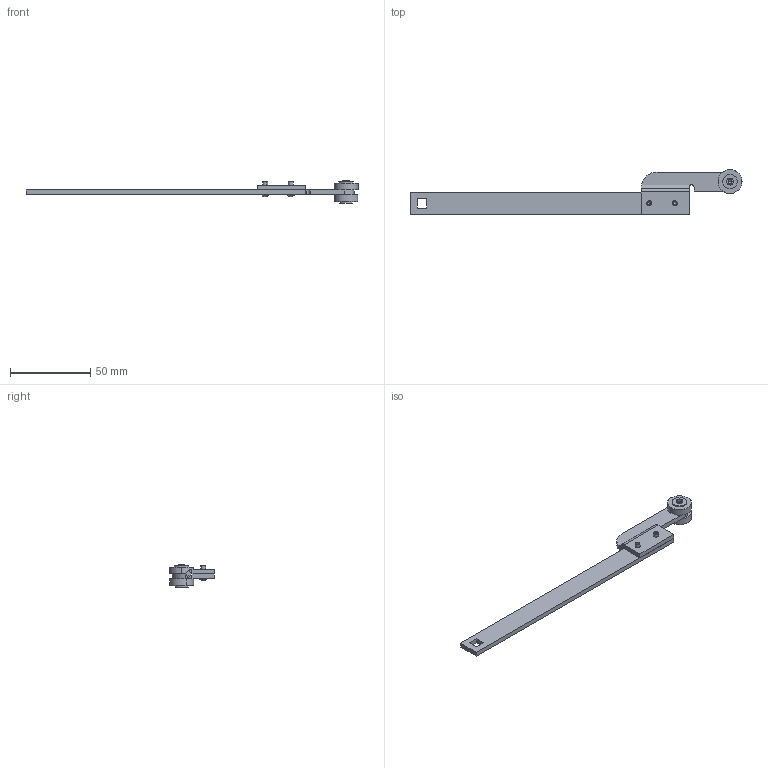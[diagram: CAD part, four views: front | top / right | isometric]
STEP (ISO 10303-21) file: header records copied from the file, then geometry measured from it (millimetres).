
FILE_DESCRIPTION (( 'STEP AP214' ), '1' );
FILE_NAME ('1C.AB17K-L.STEP', '2025-12-04T12:27:12', ( '' ), ( '' ), 'SwSTEP 2.0', 'SolidWorks 2021', '' );
FILE_SCHEMA (( 'AUTOMOTIVE_DESIGN' ));
Length unit declared in the file: millimetre
Products named in the file (8): DIN 6791_fi3x8 - ZN; 1C.905.001_A; 1C.AB17K-L; A.007462_AB-17; P.052723_AB-K; P.052724_AB-17; 1C.ROLKA.02.04.00_A-zak; DIN 125_M4
Assembly tree (9 placements, depth 3):
  1C.AB17K-L
    P.052723_AB-K
    A.007462_AB-17
      P.052724_AB-17
      1C.905.001_A  x2
      1C.ROLKA.02.04.00_A-zak
      DIN 125_M4
    DIN 6791_fi3x8 - ZN  x2
Bounding box: 207.5 x 28 x 14 mm (x, y, z)
Volume: 12270.9 mm3; surface area: 10778.9 mm2
Topology: 8 solids, 8 shells, 101 faces, 222 edges, 137 vertices
Faces by surface type: cylinder 46, plane 39, cone 6, torus 4, sphere 4, bspline 2
Entity records: 2713 total; most frequent: CARTESIAN_POINT 484, DIRECTION 442, ORIENTED_EDGE 364, EDGE_CURVE 182, AXIS2_PLACEMENT_3D 174, VERTEX_POINT 115, EDGE_LOOP 103, LINE 94
